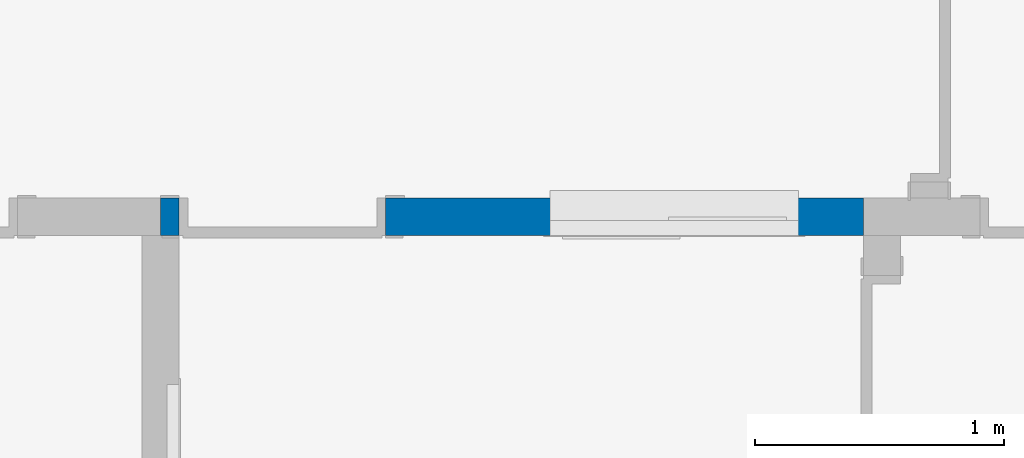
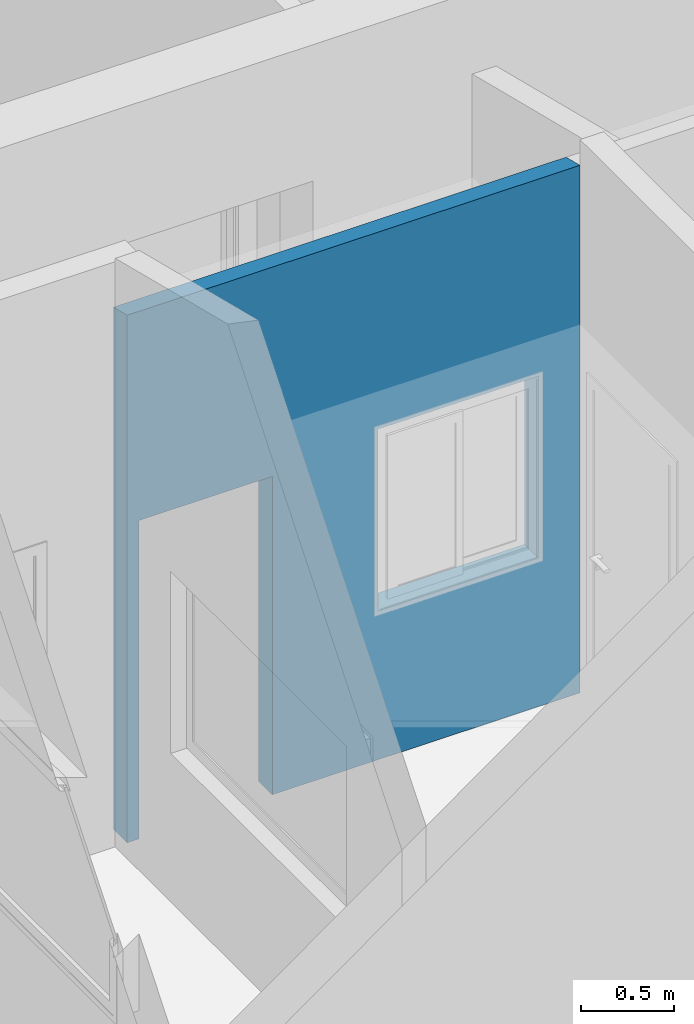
# One storey, part 133 of 153: 1 wall, 2 openings.
"""IFC4 building model written with IfcOpenShell, lengths in metres."""

from ifc_helpers import new_model, entity, si_unit, converted_unit, derived_unit, direction, frame, origin, place, context, subcontext, project, spatial, indexed_curve, outline, extrude, polygons, material, type_object, element, save


model = new_model("IFC4")

# Units and contexts
model_context = context("Model", 3, precision=1e-05, world=origin(), true_north=direction((6.123031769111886e-17, 1.0)))
body_context = subcontext(model_context, "Body", "Model", "MODEL_VIEW")
ifc_project = project(units=[si_unit("LENGTHUNIT", "METRE"), si_unit("AREAUNIT", "SQUARE_METRE"), si_unit("VOLUMEUNIT", "CUBIC_METRE"), converted_unit("PLANEANGLEUNIT", "DEGREE", entity("IfcRatioMeasure", 0.017453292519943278), si_unit("PLANEANGLEUNIT", "RADIAN"), dimensions=[0, 0, 0, 0, 0, 0, 0]), si_unit("MASSUNIT", "GRAM", prefix="KILO"), derived_unit("MASSDENSITYUNIT", [(si_unit("MASSUNIT", "GRAM", prefix="KILO"), 1), (si_unit("LENGTHUNIT", "METRE"), -3)]), derived_unit("MOMENTOFINERTIAUNIT", [(si_unit("LENGTHUNIT", "METRE"), 4)]), si_unit("TIMEUNIT", "SECOND"), si_unit("FREQUENCYUNIT", "HERTZ"), si_unit("THERMODYNAMICTEMPERATUREUNIT", "DEGREE_CELSIUS"), derived_unit("THERMALTRANSMITTANCEUNIT", [(si_unit("MASSUNIT", "GRAM", prefix="KILO"), 1), (si_unit("THERMODYNAMICTEMPERATUREUNIT", "KELVIN"), -1), (si_unit("TIMEUNIT", "SECOND"), -3)]), derived_unit("VOLUMETRICFLOWRATEUNIT", [(si_unit("LENGTHUNIT", "METRE"), 3), (si_unit("TIMEUNIT", "SECOND"), -1)]), derived_unit("MASSFLOWRATEUNIT", [(si_unit("MASSUNIT", "GRAM", prefix="KILO"), 1), (si_unit("TIMEUNIT", "SECOND"), -1)]), derived_unit("ROTATIONALFREQUENCYUNIT", [(si_unit("TIMEUNIT", "SECOND"), -1)]), si_unit("ELECTRICCURRENTUNIT", "AMPERE"), si_unit("ELECTRICVOLTAGEUNIT", "VOLT"), si_unit("POWERUNIT", "WATT"), si_unit("FORCEUNIT", "NEWTON", prefix="KILO"), si_unit("ILLUMINANCEUNIT", "LUX"), si_unit("LUMINOUSFLUXUNIT", "LUMEN"), si_unit("LUMINOUSINTENSITYUNIT", "CANDELA"), derived_unit("USERDEFINED", [(si_unit("MASSUNIT", "GRAM", prefix="KILO"), -1), (si_unit("LENGTHUNIT", "METRE"), -2), (si_unit("TIMEUNIT", "SECOND"), 3), (si_unit("LUMINOUSFLUXUNIT", "LUMEN"), 1)]), derived_unit("SOUNDPOWERUNIT", [(si_unit("MASSUNIT", "GRAM", prefix="KILO"), 1), (si_unit("LENGTHUNIT", "METRE"), 2), (si_unit("TIMEUNIT", "SECOND"), -3)]), derived_unit("SOUNDPRESSUREUNIT", [(si_unit("MASSUNIT", "GRAM", prefix="KILO"), 1), (si_unit("LENGTHUNIT", "METRE"), -1), (si_unit("TIMEUNIT", "SECOND"), -2)]), derived_unit("LINEARVELOCITYUNIT", [(si_unit("LENGTHUNIT", "METRE"), 1), (si_unit("TIMEUNIT", "SECOND"), -1)]), si_unit("PRESSUREUNIT", "PASCAL"), derived_unit("USERDEFINED", [(si_unit("LENGTHUNIT", "METRE"), -2), (si_unit("MASSUNIT", "GRAM", prefix="KILO"), 1), (si_unit("TIMEUNIT", "SECOND"), -2)]), derived_unit("LINEARFORCEUNIT", [(si_unit("MASSUNIT", "GRAM", prefix="KILO"), 1), (si_unit("LENGTHUNIT", "METRE"), 1), (si_unit("TIMEUNIT", "SECOND"), -2), (si_unit("LENGTHUNIT", "METRE"), -1)]), derived_unit("PLANARFORCEUNIT", [(si_unit("MASSUNIT", "GRAM", prefix="KILO"), 1), (si_unit("LENGTHUNIT", "METRE"), 1), (si_unit("TIMEUNIT", "SECOND"), -2), (si_unit("LENGTHUNIT", "METRE"), -2)])], contexts=[model_context])

# Site, building, storey
site_placement = place(None, origin())
site = spatial("IfcSite", under=ifc_project, at=site_placement, Name="Superficie", CompositionType="ELEMENT")
building_placement = place(site_placement, origin())
building = spatial("IfcBuilding", under=site, at=building_placement, CompositionType="ELEMENT")
storey_placement = place(building_placement, frame((0.0, 0.0, 3.5999999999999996)))
storey = spatial("IfcBuildingStorey", under=building, at=storey_placement, Name="Nivel 1", CompositionType="ELEMENT", Elevation=3.5999999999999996)

# Wall, openings
ifc_material = material(Name="Muro por defecto", Category="Varios")
wall_type = type_object("IfcWallType", Name="Muro básico:Por defecto - 15 cm 2", PredefinedType="STANDARD")
wall_placement = place(storey_placement, frame((1.5210019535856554, 8.950829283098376, 0.5199999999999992), z_axis=(0.0, 0.0, 1.0), x_axis=(-1.0, 0.0, 0.0)))
wall = element("IfcWall", 1, at=wall_placement, inside=storey, type_object=wall_type, material=ifc_material, Name="Muro básico:Por defecto - 15 cm 2", ObjectType="Muro básico:Por defecto - 15 cm 2", PredefinedType="NOTDEFINED", context=body_context, shape_type="Tessellation", body=[
    polygons([(1.2599999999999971, -0.07500000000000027, 0.9800000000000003), (0.25999999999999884, -0.07499999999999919, 0.9800000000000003), (0.25999999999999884, -0.07499999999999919, 2.179999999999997), (1.2599999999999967, -0.07500000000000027, 2.179999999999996), (2.8249999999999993, -0.07500000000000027, 5.414335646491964e-16), (2.8249999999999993, -0.07500000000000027, 3.44297907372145), (3.130326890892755e-16, -0.07499999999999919, 3.4429790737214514), (3.130326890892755e-16, -0.07499999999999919, 5.414335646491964e-16), (1.9199999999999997, -0.07500000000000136, 5.414335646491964e-16), (1.9200000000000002, -0.07500000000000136, 2.099999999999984), (2.749999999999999, -0.07499999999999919, 2.099999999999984), (2.7499999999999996, -0.07499999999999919, 5.414335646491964e-16), (1.2599999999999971, 0.07499999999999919, 0.9800000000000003), (1.2599999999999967, 0.07499999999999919, 2.179999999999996), (0.2599999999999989, 0.07500000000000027, 2.179999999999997), (0.2599999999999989, 0.07500000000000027, 0.9800000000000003), (2.8249999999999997, 0.07500000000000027, 3.4801691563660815), (2.8249999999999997, 0.07500000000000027, 5.414335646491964e-16), (2.7499999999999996, 0.07500000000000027, 5.414335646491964e-16), (2.7499999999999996, 0.07500000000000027, 2.099999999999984), (1.9200000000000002, 0.07499999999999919, 2.099999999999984), (1.9199999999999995, 0.07499999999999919, 5.414335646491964e-16), (3.2287693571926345e-16, 0.07500000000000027, 5.414335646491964e-16), (5.2160153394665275e-17, 0.07500000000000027, 3.4801691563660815)], [[[5, 6, 7, 8, 9, 10, 11, 12], [1, 2, 3, 4]], [[17, 18, 19, 20, 21, 22, 23, 24], [13, 14, 15, 16]], [[6, 5, 18, 17]], [[8, 7, 24, 23]], [[11, 20, 19, 12]], [[20, 11, 10, 21]], [[21, 10, 9, 22]], [[8, 23, 22, 9]], [[14, 13, 1, 4]], [[15, 14, 4, 3]], [[16, 15, 3, 2]], [[13, 16, 2, 1]], [[7, 6, 17, 24]], [[18, 5, 12, 19]]], closed=True),
])
opening_1_placement = place(wall_placement, frame((1.9199999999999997, -0.07500000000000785, 0.0)))
element("IfcOpeningElement", 2, at=opening_1_placement, cuts=wall, Name="Puerta de 1 hoja:83 x 210 cm 3:1", PredefinedType="OPENING", context=body_context, shape_type="SweptSolid", body=[
    extrude(outline(indexed_curve([(0.0, 0.829999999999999), (0.0, 0.0), (2.099999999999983, 0.0), (2.099999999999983, 0.829999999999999), (0.0, 0.829999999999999)], self_intersect=False)), frame((0.0, 0.0, 0.0), z_axis=(0.0, 1.0, 0.0), x_axis=(0.0, 0.0, 1.0)), (0.0, 0.0, 1.0), 0.14999999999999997),
])
opening_2_placement = place(wall_placement, frame((1.2599999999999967, 0.07499999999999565, 0.9800000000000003)))
element("IfcOpeningElement", 3, at=opening_2_placement, cuts=wall, Name="Ventana corredera de 2 hojas 2:1600 x 1600mm:1", PredefinedType="OPENING", context=body_context, shape_type="SweptSolid", body=[
    extrude(outline(indexed_curve([(0.0, 2.7255710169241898e-33), (1.1999999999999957, 2.7255710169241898e-33), (1.1999999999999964, 0.9999999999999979), (0.0, 0.9999999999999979), (0.0, 2.7255710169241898e-33)], self_intersect=False)), frame((0.0, 0.0, 0.0), z_axis=(0.0, -1.0, 0.0), x_axis=(0.0, 0.0, 1.0)), (0.0, 0.0, 1.0), 0.14999999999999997),
])

save(model, "model.ifc")
